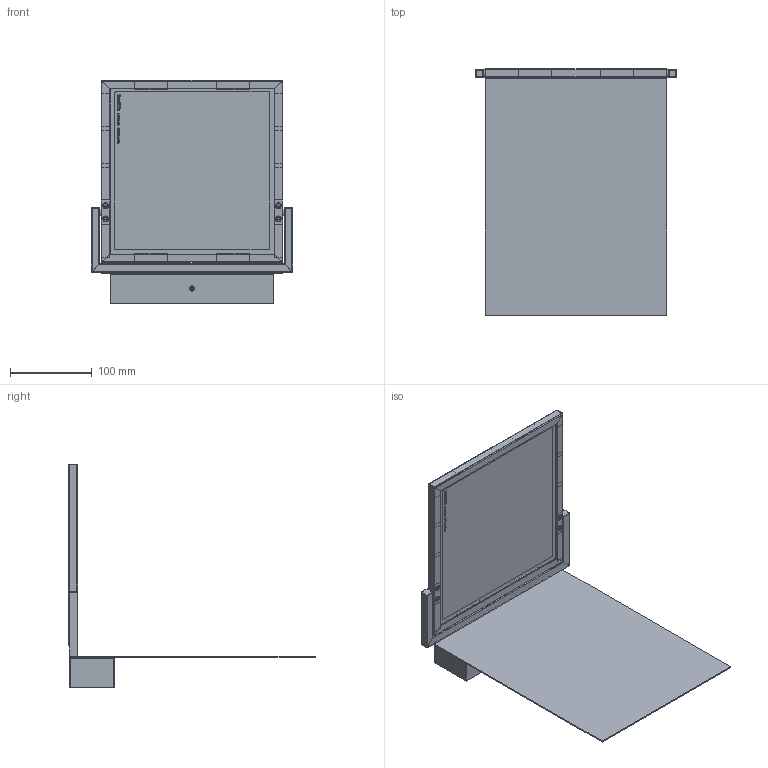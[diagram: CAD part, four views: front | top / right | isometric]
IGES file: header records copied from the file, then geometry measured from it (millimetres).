
Start section: SolidWorks IGES file using analytic representation for surfaces
Global section: file name: C:\SANTACOLE_PDM\Proyectos Catálogo\PROD-P11-009 -- PIERO\6_Técnico comercial\3D\Aplique\BW R1 Rotating Scene Aplique.IGS; native system: SolidWorks 2019; preprocessor: SolidWorks 2019; author: ana.pascual; date: 200403.110225; units: millimetre
Bounding box: 246 x 300.5 x 272.5 mm (x, y, z)
Surface area: 460882.4 mm2 (no closed solid volume)
Topology: 0 solids, 0 shells, 1111 faces, 9882 edges, 9882 vertices
Faces by surface type: bspline 893, revolution 218
